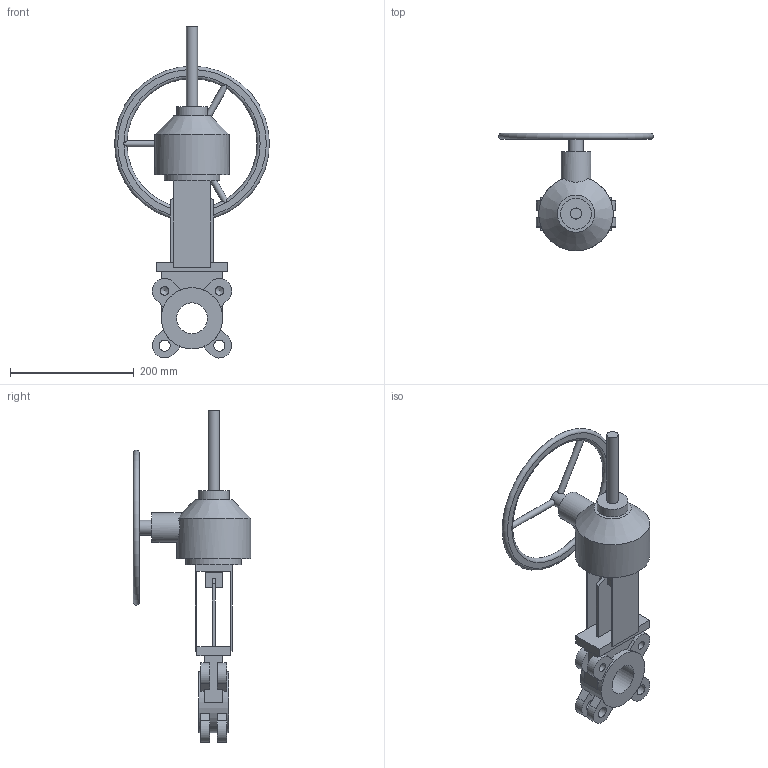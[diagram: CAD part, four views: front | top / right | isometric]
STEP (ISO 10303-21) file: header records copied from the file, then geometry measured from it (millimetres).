
FILE_DESCRIPTION(('STEP AP203'), '1');
FILE_NAME('Çàäâèæêà øèáåðíàÿ K51GV DN50 ðåäóêòîð+âûäâèæíîé øïèíäåëü', '', ('UNSPECIFIED'), ('UNSPECIFIED'), 'ASCON STEP Converter 1.6', 'ASCON Math Kernel', '');
FILE_SCHEMA(('CONFIG_CONTROL_DESIGN'));
Length unit declared in the file: millimetre
Bounding box: 250 x 190 x 536.12 mm (x, y, z)
Volume: 2008079.3 mm3; surface area: 247000 mm2
Topology: 1 solids, 1 shells, 118 faces, 312 edges, 201 vertices
Faces by surface type: plane 81, cylinder 28, cone 5, torus 4
Full cylindrical faces by diameter (mm): 10 x3, 13.835 x4, 18 x6, 24 x1, 48 x1, 50 x2, 90 x1, 99 x1, 120 x1
Entity records: 5863 total; most frequent: CARTESIAN_POINT 2008, DIRECTION 590, ORIENTED_EDGE 562, EDGE_CURVE 281, AXIS2_PLACEMENT_3D 205, VERTEX_POINT 197, LINE 180, VECTOR 180
